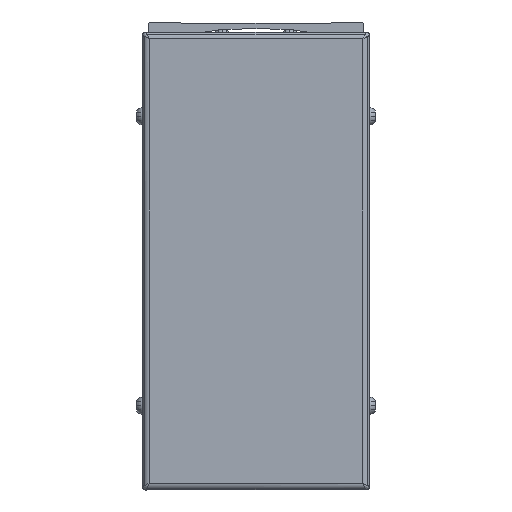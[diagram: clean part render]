
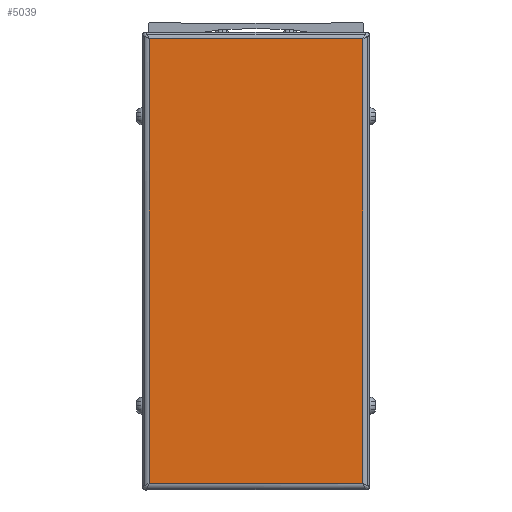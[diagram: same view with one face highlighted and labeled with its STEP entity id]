
A CAD part, front view. The second image highlights one B-rep face of the part: STEP entity #5039.
In plain terms, the highlighted planar face has unit normal (0, -1, 0).
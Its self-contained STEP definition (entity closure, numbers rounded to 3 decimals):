
#5039=ADVANCED_FACE('',(#10227),#10228,.T.);
#10227=FACE_OUTER_BOUND('',#16407,.T.);
#10228=PLANE('',#16408);
#16407=EDGE_LOOP('',(#30832,#30833,#30834,#30835));
#16408=AXIS2_PLACEMENT_3D('',#30836,#30837,#30838);
#30832=ORIENTED_EDGE('',*,*,#38942,.F.);
#30833=ORIENTED_EDGE('',*,*,#38943,.F.);
#30834=ORIENTED_EDGE('',*,*,#38944,.F.);
#30835=ORIENTED_EDGE('',*,*,#38945,.F.);
#30836=CARTESIAN_POINT('',(300.,106.,-44.));
#30837=DIRECTION('',(0.,-1.0,0.));
#30838=DIRECTION('',(0.,0.,1.0));
#38942=EDGE_CURVE('',#47925,#47926,#47927,.T.);
#38943=EDGE_CURVE('',#47928,#47925,#47929,.T.);
#38944=EDGE_CURVE('',#47930,#47928,#47931,.T.);
#38945=EDGE_CURVE('',#47926,#47930,#47932,.T.);
#47925=VERTEX_POINT('',#60798);
#47926=VERTEX_POINT('',#60799);
#47927=LINE('',#60800,#60801);
#47928=VERTEX_POINT('',#60802);
#47929=LINE('',#60803,#60804);
#47930=VERTEX_POINT('',#60805);
#47931=LINE('',#60806,#60807);
#47932=LINE('',#60808,#60809);
#60798=CARTESIAN_POINT('',(268.3,106.,22.));
#60799=CARTESIAN_POINT('',(331.7,106.,22.));
#60800=CARTESIAN_POINT('',(300.,106.,22.));
#60801=VECTOR('',#67775,10.0);
#60802=CARTESIAN_POINT('',(268.3,106.,-110.));
#60803=CARTESIAN_POINT('',(268.3,106.,-44.));
#60804=VECTOR('',#67776,10.0);
#60805=CARTESIAN_POINT('',(331.7,106.,-110.));
#60806=CARTESIAN_POINT('',(300.,106.,-110.));
#60807=VECTOR('',#67777,10.0);
#60808=CARTESIAN_POINT('',(331.7,106.,-44.));
#60809=VECTOR('',#67778,10.0);
#67775=DIRECTION('',(1.0,0.,0.));
#67776=DIRECTION('',(0.,0.,1.0));
#67777=DIRECTION('',(-1.0,0.,0.));
#67778=DIRECTION('',(0.,0.,-1.0));
